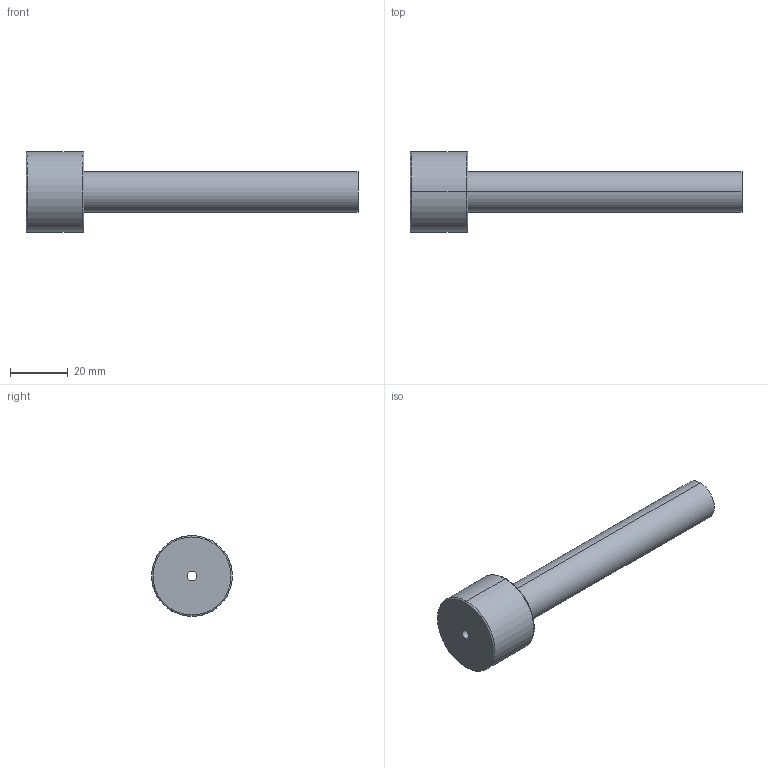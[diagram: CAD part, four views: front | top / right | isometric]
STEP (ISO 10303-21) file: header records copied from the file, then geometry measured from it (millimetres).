
FILE_DESCRIPTION(('CATIA V5 STEP Exchange'),'2;1');
FILE_NAME('C:\Users\Utente\Desktop\IO LAVORO\3D X SITO CF\X SITO\PLASTICA\3D files 367\367-14X115.stp','2021-03-24T15:11:28+00:00',('none'),('none'),'CATIA Version 5 Release 20 GA (IN-10)','CATIA V5 STEP AP203','none');
FILE_SCHEMA(('CONFIG_CONTROL_DESIGN'));
Length unit declared in the file: millimetre
Products named in the file (1): 367-14X115
Bounding box: 115 x 28 x 28 mm (x, y, z)
Volume: 23059 mm3; surface area: 9335.3 mm2
Topology: 1 solids, 1 shells, 13 faces, 42 edges, 32 vertices
Faces by surface type: torus 4, cylinder 4, plane 3, cone 2
Entity records: 608 total; most frequent: CARTESIAN_POINT 194, ORIENTED_EDGE 84, DIRECTION 60, AXIS2_PLACEMENT_3D 42, EDGE_CURVE 42, VERTEX_POINT 32, CIRCLE 28, EDGE_LOOP 16
